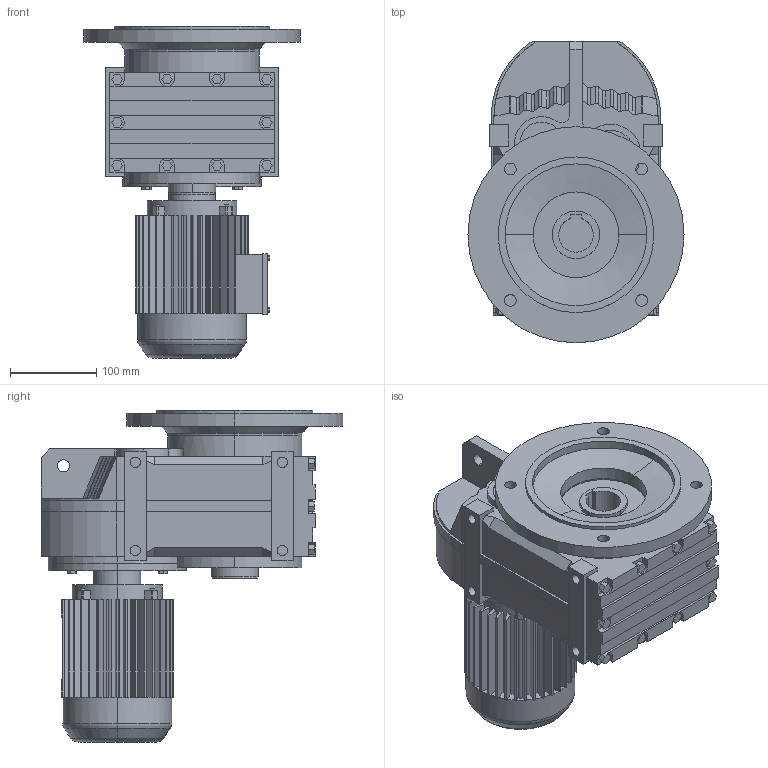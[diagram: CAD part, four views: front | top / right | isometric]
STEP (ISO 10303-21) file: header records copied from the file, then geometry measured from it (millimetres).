
FILE_DESCRIPTION(('Open CASCADE Model'),'2;1');
FILE_NAME('Open CASCADE Shape Model','2021-07-14T17:21:21',('Author'),( 'Open CASCADE'),'Open CASCADE STEP processor 6.3','Open CASCADE 6.3' ,'Unknown');
FILE_SCHEMA(('AUTOMOTIVE_DESIGN_CC2 { 1 2 10303 214 -1 1 5 4 }'));
Length unit declared in the file: millimetre
Products named in the file (5): 1_FAF57-Y63S; FA27‵157_57.step; 萇儂_160_Y63S.step; す瑩諾陑粣F_57.step; 楊擘F_57.step
Assembly tree (4 placements, depth 2):
  1_FAF57-Y63S
    FA27‵157_57.step
    萇儂_160_Y63S.step
    す瑩諾陑粣F_57.step
    楊擘F_57.step
Bounding box: 250 x 349 x 384 mm (x, y, z)
Volume: 9871961.3 mm3; surface area: 700479.3 mm2
Topology: 4 solids, 4 shells, 805 faces, 2123 edges, 1380 vertices
Faces by surface type: plane 570, cylinder 209, bspline 16, cone 6, torus 4
Entity records: 53855 total; most frequent: CARTESIAN_POINT 13122, DIRECTION 7119, ORIENTED_EDGE 4246, PCURVE 4246, DEFINITIONAL_REPRESENTATION 4246, LINE 3963, VECTOR 3963, EDGE_CURVE 2123
